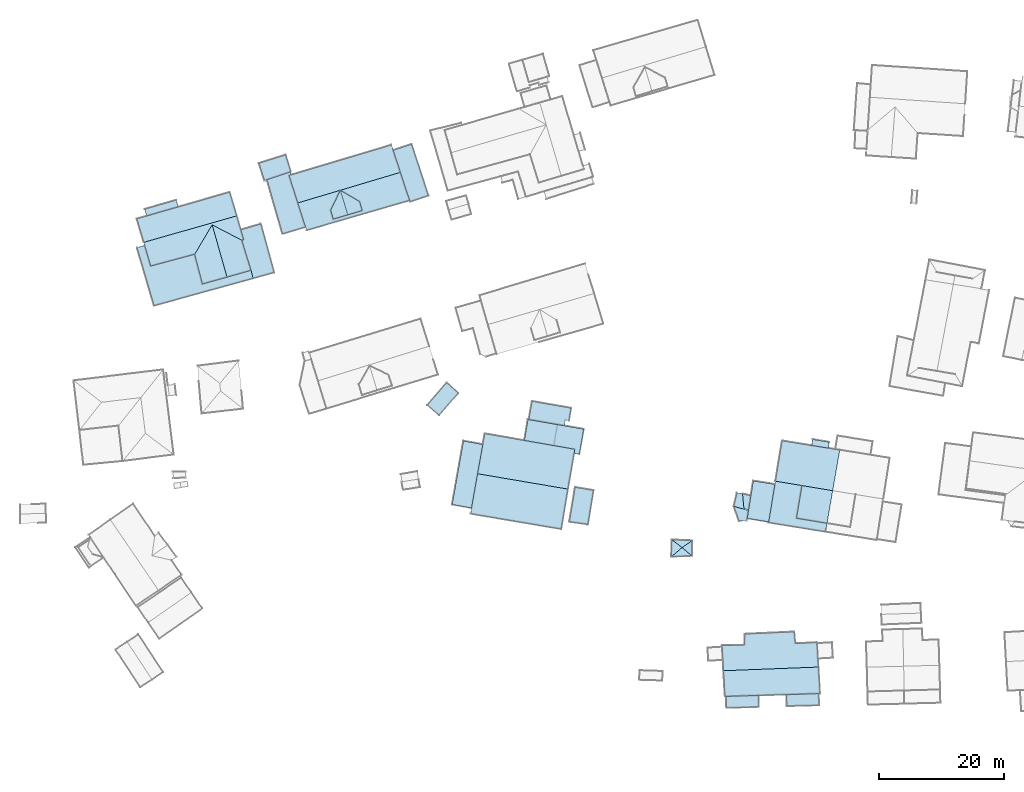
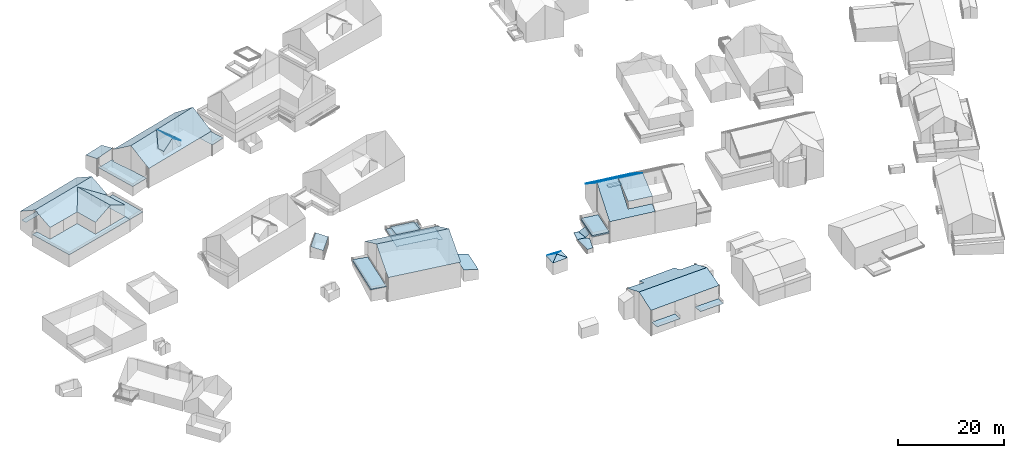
# Not in any storey, part 52 of 57: 81 roofs.
"""IFC4 building model written with IfcOpenShell, lengths in metres."""

from ifc_helpers import new_model, entity, si_unit, converted_unit, frame, origin, place, context, subcontext, project, spatial, face_set, surface_model, element, save


model = new_model("IFC4")

# Units and contexts
model_context = context("Model", 3, precision=1e-05, world=origin())
body_context = subcontext(model_context, "Body", "Model", "MODEL_VIEW")
ifc_project = project(units=[converted_unit("PLANEANGLEUNIT", "DEGREE", entity("IfcRatioMeasure", 0.0174532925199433), si_unit("PLANEANGLEUNIT", "RADIAN"), dimensions=[0, 0, 0, 0, 0, 0, 0]), si_unit("AREAUNIT", "SQUARE_METRE"), si_unit("LENGTHUNIT", "METRE")], contexts=[model_context])

# Site, building
site_placement = place(None, origin())
site = spatial("IfcSite", under=ifc_project, at=site_placement, Name="_site")
building_1_placement = place(site_placement, origin())
building_1 = spatial("IfcBuilding", under=site, at=building_1_placement, Name="_building")

# Roofs
for number, where, name in (
    (1, (0.0, 0.0, 0.0), "Roof"),
    (2, (0.0, 0.0, 0.0), "Roof"),
):
    element("IfcRoof", number, at=place(building_1_placement, frame(where)), inside=building_1, Name=name, PredefinedType="NOTDEFINED", context=body_context, shape_type="SurfaceModel", body=[
        surface_model("IfcFaceBasedSurfaceModel", [(137.156, 142.581, 118.75), (138.632, 138.094, 118.74), (138.698, 137.892, 118.75), (141.642, 138.854, 118.75), (138.963, 147.072, 118.75), (137.47, 146.587, 118.75), (136.008, 146.11, 118.75)], [face_set([[[0, 1, 2, 3, 4, 5, 6]]])]),
    ])

# Building
building_2_placement = place(site_placement, origin())
building_2 = spatial("IfcBuilding", under=site, at=building_2_placement, Name="_building")

# Roofs
roof_1_placement = place(building_2_placement, origin())
element("IfcRoof", 3, at=roof_1_placement, inside=building_2, Name="Roof", PredefinedType="NOTDEFINED", context=body_context, shape_type="SurfaceModel", body=[
    surface_model("IfcFaceBasedSurfaceModel", [(183.722, 81.324, 111.21), (183.759, 83.774, 111.23), (182.132, 82.662, 111.82)], [face_set([[[0, 1, 2]]])]),
])
roof_2_placement = place(building_2_placement, origin())
element("IfcRoof", 4, at=roof_2_placement, inside=building_2, Name="Roof", PredefinedType="NOTDEFINED", context=body_context, shape_type="SurfaceModel", body=[
    surface_model("IfcFaceBasedSurfaceModel", [(182.132, 82.662, 111.82), (180.491, 83.921, 111.23), (180.427, 81.201, 111.18)], [face_set([[[0, 1, 2]]])]),
])
roof_3_placement = place(building_2_placement, origin())
element("IfcRoof", 5, at=roof_3_placement, inside=building_2, Name="Roof", PredefinedType="NOTDEFINED", context=body_context, shape_type="SurfaceModel", body=[
    surface_model("IfcFaceBasedSurfaceModel", [(180.427, 81.201, 111.18), (183.722, 81.324, 111.21), (182.132, 82.662, 111.82)], [face_set([[[0, 1, 2]]])]),
])
roof_4_placement = place(building_2_placement, origin())
element("IfcRoof", 6, at=roof_4_placement, inside=building_2, Name="Roof", PredefinedType="NOTDEFINED", context=body_context, shape_type="SurfaceModel", body=[
    surface_model("IfcFaceBasedSurfaceModel", [(183.759, 83.774, 111.23), (180.491, 83.921, 111.23), (182.132, 82.662, 111.82)], [face_set([[[0, 1, 2]]])]),
])
roof_5_placement = place(building_2_placement, origin())
element("IfcRoof", 7, at=roof_5_placement, inside=building_2, Name="Roof", PredefinedType="NOTDEFINED", context=body_context, shape_type="SurfaceModel", body=[
    surface_model("IfcFaceBasedSurfaceModel", [(183.722, 81.324, 111.21), (183.759, 83.774, 111.23), (182.132, 82.662, 111.82)], [face_set([[[0, 1, 2]]])]),
])
roof_6_placement = place(building_2_placement, origin())
element("IfcRoof", 8, at=roof_6_placement, inside=building_2, Name="Roof", PredefinedType="NOTDEFINED", context=body_context, shape_type="SurfaceModel", body=[
    surface_model("IfcFaceBasedSurfaceModel", [(182.132, 82.662, 111.82), (180.491, 83.921, 111.23), (180.427, 81.201, 111.18)], [face_set([[[0, 1, 2]]])]),
])
roof_7_placement = place(building_2_placement, origin())
element("IfcRoof", 9, at=roof_7_placement, inside=building_2, Name="Roof", PredefinedType="NOTDEFINED", context=body_context, shape_type="SurfaceModel", body=[
    surface_model("IfcFaceBasedSurfaceModel", [(180.427, 81.201, 111.18), (183.722, 81.324, 111.21), (182.132, 82.662, 111.82)], [face_set([[[0, 1, 2]]])]),
])
roof_8_placement = place(building_2_placement, origin())
element("IfcRoof", 10, at=roof_8_placement, inside=building_2, Name="Roof", PredefinedType="NOTDEFINED", context=body_context, shape_type="SurfaceModel", body=[
    surface_model("IfcFaceBasedSurfaceModel", [(183.759, 83.774, 111.23), (180.491, 83.921, 111.23), (182.132, 82.662, 111.82)], [face_set([[[0, 1, 2]]])]),
])

# Building
building_3_placement = place(site_placement, origin())
building_3 = spatial("IfcBuilding", under=site, at=building_3_placement, Name="_building")

# Roofs
roof_9_placement = place(building_3_placement, origin())
element("IfcRoof", 11, at=roof_9_placement, inside=building_3, Name="Roof", PredefinedType="NOTDEFINED", context=body_context, shape_type="SurfaceModel", body=[
    surface_model("IfcFaceBasedSurfaceModel", [(96.318, 130.92, 117.72), (95.099, 130.568, 117.72), (97.824, 121.278, 117.72), (113.626, 125.643, 117.72), (113.305, 126.93, 117.72), (109.468, 125.839, 117.72), (105.549, 124.74, 117.72), (104.3, 129.492, 117.72), (97.291, 127.605, 117.72)], [face_set([[[0, 1, 2, 3, 4, 5, 6, 7, 8]]])]),
])
roof_10_placement = place(building_3_placement, origin())
element("IfcRoof", 12, at=roof_10_placement, inside=building_3, Name="Roof", PredefinedType="NOTDEFINED", context=body_context, shape_type="SurfaceModel", body=[
    surface_model("IfcFaceBasedSurfaceModel", [(111.028, 135.628, 122.5), (109.915, 139.417, 120.34), (95.077, 135.161, 120.29), (96.18, 131.403, 122.5)], [face_set([[[0, 1, 2, 3]]])]),
])
roof_11_placement = place(building_3_placement, origin())
element("IfcRoof", 13, at=roof_11_placement, inside=building_3, Name="Roof", PredefinedType="NOTDEFINED", context=body_context, shape_type="SurfaceModel", body=[
    surface_model("IfcFaceBasedSurfaceModel", [(111.837, 131.727, 120.35), (112.139, 131.8, 120.35), (111.676, 133.402, 121.25), (111.028, 135.628, 122.5), (96.18, 131.403, 122.5), (96.318, 130.92, 122.23), (96.337, 130.849, 122.19), (97.291, 127.605, 120.37), (100.796, 128.553, 120.37), (104.3, 129.492, 120.37), (107.092, 134.199, 122.34)], [face_set([[[0, 1, 2, 3, 4, 5, 6, 7, 8, 9, 10]]])]),
])
roof_12_placement = place(building_3_placement, origin())
element("IfcRoof", 14, at=roof_12_placement, inside=building_3, Name="Roof", PredefinedType="NOTDEFINED", context=body_context, shape_type="SurfaceModel", body=[
    surface_model("IfcFaceBasedSurfaceModel", [(107.092, 134.199, 122.34), (109.468, 125.839, 122.34), (113.305, 126.93, 120.4), (111.837, 131.727, 120.35)], [face_set([[[0, 1, 2, 3]]])]),
])
roof_13_placement = place(building_3_placement, origin())
element("IfcRoof", 15, at=roof_13_placement, inside=building_3, Name="Roof", PredefinedType="NOTDEFINED", context=body_context, shape_type="SurfaceModel", body=[
    surface_model("IfcFaceBasedSurfaceModel", [(96.318, 130.92, 117.72), (95.099, 130.568, 117.72), (97.824, 121.278, 117.72), (113.626, 125.643, 117.72), (113.305, 126.93, 117.72), (109.468, 125.839, 117.72), (105.549, 124.74, 117.72), (104.3, 129.492, 117.72), (97.291, 127.605, 117.72)], [face_set([[[0, 1, 2, 3, 4, 5, 6, 7, 8]]])]),
])
roof_14_placement = place(building_3_placement, origin())
element("IfcRoof", 16, at=roof_14_placement, inside=building_3, Name="Roof", PredefinedType="NOTDEFINED", context=body_context, shape_type="SurfaceModel", body=[
    surface_model("IfcFaceBasedSurfaceModel", [(111.837, 131.727, 120.35), (112.139, 131.8, 120.35), (111.676, 133.402, 121.25), (111.028, 135.628, 122.5), (96.18, 131.403, 122.5), (96.318, 130.92, 122.23), (96.337, 130.849, 122.19), (97.291, 127.605, 120.37), (100.796, 128.553, 120.37), (104.3, 129.492, 120.37), (107.092, 134.199, 122.34)], [face_set([[[0, 1, 2, 3, 4, 5, 6, 7, 8, 9, 10]]])]),
])
roof_15_placement = place(building_3_placement, origin())
element("IfcRoof", 17, at=roof_15_placement, inside=building_3, Name="Roof", PredefinedType="NOTDEFINED", context=body_context, shape_type="SurfaceModel", body=[
    surface_model("IfcFaceBasedSurfaceModel", [(107.092, 134.199, 122.34), (109.468, 125.839, 122.34), (113.305, 126.93, 120.4), (111.837, 131.727, 120.35)], [face_set([[[0, 1, 2, 3]]])]),
])
roof_16_placement = place(building_3_placement, origin())
element("IfcRoof", 18, at=roof_16_placement, inside=building_3, Name="Roof", PredefinedType="NOTDEFINED", context=body_context, shape_type="SurfaceModel", body=[
    surface_model("IfcFaceBasedSurfaceModel", [(111.028, 135.628, 122.5), (109.915, 139.417, 120.34), (95.077, 135.161, 120.29), (96.18, 131.403, 122.5)], [face_set([[[0, 1, 2, 3]]])]),
])
roof_17_placement = place(building_3_placement, origin())
element("IfcRoof", 19, at=roof_17_placement, inside=building_3, Name="Roof", PredefinedType="NOTDEFINED", context=body_context, shape_type="SurfaceModel", body=[
    surface_model("IfcFaceBasedSurfaceModel", [(107.092, 134.199, 122.34), (104.3, 129.492, 120.37), (105.549, 124.74, 120.42), (109.468, 125.839, 122.34)], [face_set([[[0, 1, 2, 3]]])]),
])
for number, where, name in (
    (20, (0.0, 0.0, 0.0), "Roof"),
    (21, (0.0, 0.0, 0.0), "Roof"),
):
    element("IfcRoof", number, at=place(building_3_placement, frame(where)), inside=building_3, Name=name, PredefinedType="NOTDEFINED", context=body_context, shape_type="SurfaceModel", body=[
        surface_model("IfcFaceBasedSurfaceModel", [(101.685, 137.058, 116.92), (101.371, 138.156, 116.92), (96.304, 136.703, 116.92), (96.618, 135.605, 116.92)], [face_set([[[0, 1, 2, 3]]])]),
    ])
roof_18_placement = place(building_3_placement, origin())
element("IfcRoof", 22, at=roof_18_placement, inside=building_3, Name="Roof", PredefinedType="NOTDEFINED", context=body_context, shape_type="SurfaceModel", body=[
    surface_model("IfcFaceBasedSurfaceModel", [(107.092, 134.199, 122.34), (104.3, 129.492, 120.37), (105.549, 124.74, 120.42), (109.468, 125.839, 122.34)], [face_set([[[0, 1, 2, 3]]])]),
])

# Building
building_4_placement = place(site_placement, origin())
building_4 = spatial("IfcBuilding", under=site, at=building_4_placement, Name="_building")

# Roofs
for number, where, name in (
    (23, (0.0, 0.0, 0.0), "Roof"),
    (24, (0.0, 0.0, 0.0), "Roof"),
):
    element("IfcRoof", number, at=place(building_4_placement, frame(where)), inside=building_4, Name=name, PredefinedType="NOTDEFINED", context=body_context, shape_type="SurfaceModel", body=[
        surface_model("IfcFaceBasedSurfaceModel", [(143.323, 103.783, 113.35), (146.407, 107.333, 113.35), (144.525, 108.978, 113.95), (141.44, 105.418, 113.95)], [face_set([[[0, 1, 2, 3]]])]),
    ])

# Building
building_5_placement = place(site_placement, origin())
building_5 = spatial("IfcBuilding", under=site, at=building_5_placement, Name="_building")

# Roofs
for number, where, name in (
    (25, (0.0, 0.0, 0.0), "Roof"),
    (26, (0.0, 0.0, 0.0), "Roof"),
):
    element("IfcRoof", number, at=place(building_5_placement, frame(where)), inside=building_5, Name=name, PredefinedType="NOTDEFINED", context=body_context, shape_type="SurfaceModel", body=[
        surface_model("IfcFaceBasedSurfaceModel", [(113.305, 126.93, 117.72), (113.626, 125.643, 117.72), (117.02, 126.583, 117.72), (114.89, 134.347, 117.72), (113.348, 133.893, 117.72), (111.676, 133.402, 117.72), (112.139, 131.8, 117.72), (111.837, 131.727, 117.72)], [face_set([[[0, 1, 2, 3, 4, 5, 6, 7]]])]),
    ])

# Building
building_6_placement = place(site_placement, origin())
building_6 = spatial("IfcBuilding", under=site, at=building_6_placement, Name="_building")

# Roofs
for number, where, name in (
    (27, (0.0, 0.0, 0.0), "Roof"),
    (28, (0.0, 0.0, 0.0), "Roof"),
):
    element("IfcRoof", number, at=place(building_6_placement, frame(where)), inside=building_6, Name=name, PredefinedType="NOTDEFINED", context=body_context, shape_type="SurfaceModel", body=[
        surface_model("IfcFaceBasedSurfaceModel", [(164.137, 86.766, 111.96), (167.099, 86.336, 111.26), (168.007, 91.788, 111.26), (165.057, 92.287, 111.96)], [face_set([[[0, 1, 2, 3]]])]),
    ])

# Building
building_7_placement = place(site_placement, origin())
building_7 = spatial("IfcBuilding", under=site, at=building_7_placement, Name="_building")

# Roofs
roof_19_placement = place(building_7_placement, origin())
element("IfcRoof", 29, at=roof_19_placement, inside=building_7, Name="Roof", PredefinedType="NOTDEFINED", context=body_context, shape_type="SurfaceModel", body=[
    surface_model("IfcFaceBasedSurfaceModel", [(115.856, 141.4, 121.649), (119.537, 142.633, 121.737), (119.678, 142.68, 121.74), (118.84, 145.371, 121.11), (114.566, 144.031, 121.12), (115.462, 141.268, 121.64)], [face_set([[[0, 1, 2, 3, 4, 5]]])]),
])
for number, where, name in (
    (30, (0.0, 0.0, 0.0), "Roof"),
    (31, (0.0, 0.0, 0.0), "Roof"),
):
    element("IfcRoof", number, at=place(building_7_placement, frame(where)), inside=building_7, Name=name, PredefinedType="NOTDEFINED", context=body_context, shape_type="SurfaceModel", body=[
        surface_model("IfcFaceBasedSurfaceModel", [(122.003, 133.841, 119.351), (120.772, 137.692, 119.351), (119.383, 142.067, 119.192), (119.717, 142.168, 119.18), (119.537, 142.633, 119.18), (115.856, 141.4, 119.351), (118.335, 132.745, 119.351)], [face_set([[[0, 1, 2, 3, 4, 5, 6]]])]),
    ])
roof_20_placement = place(building_7_placement, origin())
element("IfcRoof", 32, at=roof_20_placement, inside=building_7, Name="Roof", PredefinedType="NOTDEFINED", context=body_context, shape_type="SurfaceModel", body=[
    surface_model("IfcFaceBasedSurfaceModel", [(115.856, 141.4, 121.649), (119.537, 142.633, 121.737), (119.678, 142.68, 121.74), (118.84, 145.371, 121.11), (114.566, 144.031, 121.12), (115.462, 141.268, 121.64)], [face_set([[[0, 1, 2, 3, 4, 5]]])]),
])

# Building
building_8_placement = place(site_placement, origin())
building_8 = spatial("IfcBuilding", under=site, at=building_8_placement, Name="_building")

# Roofs
for number, where, name in (
    (33, (0.0, 0.0, 0.0), "Roof"),
    (34, (0.0, 0.0, 0.0), "Roof"),
):
    element("IfcRoof", number, at=place(building_8_placement, frame(where)), inside=building_8, Name=name, PredefinedType="NOTDEFINED", context=body_context, shape_type="SurfaceModel", body=[
        surface_model("IfcFaceBasedSurfaceModel", [(164.903, 97.694, 111.96), (165.73, 97.545, 111.96), (166.435, 101.571, 111.96), (157.526, 103.12, 111.96), (156.947, 99.762, 111.96), (157.017, 99.75, 111.96), (165.019, 98.352, 111.96)], [face_set([[[0, 1, 2, 3, 4, 5, 6]]])]),
    ])
for number, where, name in (
    (35, (0.0, 0.0, 0.0), "Roof"),
    (36, (0.0, 0.0, 0.0), "Roof"),
):
    element("IfcRoof", number, at=place(building_8_placement, frame(where)), inside=building_8, Name=name, PredefinedType="NOTDEFINED", context=body_context, shape_type="SurfaceModel", body=[
        surface_model("IfcFaceBasedSurfaceModel", [(166.435, 101.571, 111.94), (157.526, 103.12, 111.94), (156.947, 99.762, 111.94), (157.017, 99.75, 111.94), (165.019, 98.352, 111.94), (164.903, 97.694, 111.94), (165.73, 97.545, 111.94)], [face_set([[[0, 1, 2, 3, 4, 5, 6]]])]),
    ])

# Building
building_9_placement = place(site_placement, origin())
building_9 = spatial("IfcBuilding", under=site, at=building_9_placement, Name="_building")

# Roofs
roof_21_placement = place(building_9_placement, origin())
element("IfcRoof", 37, at=roof_21_placement, inside=building_9, Name="Roof", PredefinedType="NOTDEFINED", context=body_context, shape_type="SurfaceModel", body=[
    surface_model("IfcFaceBasedSurfaceModel", [(150.318, 99.137, 112.25), (147.219, 99.679, 112.42), (145.41, 89.525, 112.39), (148.509, 88.972, 112.28), (149.481, 94.453, 112.264)], [face_set([[[0, 1, 2, 3, 4]]])]),
])
for number, where, name in (
    (38, (0.0, 0.0, 0.0), "Roof"),
    (39, (0.0, 0.0, 0.0), "Roof"),
):
    element("IfcRoof", number, at=place(building_9_placement, frame(where)), inside=building_9, Name=name, PredefinedType="NOTDEFINED", context=body_context, shape_type="SurfaceModel", body=[
        surface_model("IfcFaceBasedSurfaceModel", [(148.509, 88.972, 112.17), (149.481, 94.453, 112.17), (150.318, 99.137, 112.17), (147.219, 99.679, 112.17), (145.41, 89.525, 112.17)], [face_set([[[0, 1, 2, 3, 4]]])]),
    ])
roof_22_placement = place(building_9_placement, origin())
element("IfcRoof", 40, at=roof_22_placement, inside=building_9, Name="Roof", PredefinedType="NOTDEFINED", context=body_context, shape_type="SurfaceModel", body=[
    surface_model("IfcFaceBasedSurfaceModel", [(150.318, 99.137, 112.25), (147.219, 99.679, 112.42), (145.41, 89.525, 112.39), (148.509, 88.972, 112.28), (149.481, 94.453, 112.264)], [face_set([[[0, 1, 2, 3, 4]]])]),
])

# Building
building_10_placement = place(site_placement, origin())
building_10 = spatial("IfcBuilding", under=site, at=building_10_placement, Name="_building")

# Roofs
roof_23_placement = place(building_10_placement, origin())
element("IfcRoof", 41, at=roof_23_placement, inside=building_10, Name="Roof", PredefinedType="NOTDEFINED", context=body_context, shape_type="SurfaceModel", body=[
    surface_model("IfcFaceBasedSurfaceModel", [(205.488, 98.535, 112.12), (202.816, 98.958, 112.11), (198.101, 99.719, 112.11), (197.04, 93.27, 116.59), (201.276, 92.562, 116.588), (206.181, 91.749, 116.585), (207.312, 98.242, 112.12)], [face_set([[[0, 1, 2, 3, 4, 5, 6]]])]),
])
roof_24_placement = place(building_10_placement, origin())
element("IfcRoof", 42, at=roof_24_placement, inside=building_10, Name="Roof", PredefinedType="NOTDEFINED", context=body_context, shape_type="SurfaceModel", body=[
    surface_model("IfcFaceBasedSurfaceModel", [(201.276, 92.562, 116.58), (200.403, 87.337, 114.72), (205.272, 86.532, 114.72), (206.181, 91.749, 116.58)], [face_set([[[0, 1, 2, 3]]])]),
])
roof_25_placement = place(building_10_placement, origin())
element("IfcRoof", 43, at=roof_25_placement, inside=building_10, Name="Roof", PredefinedType="NOTDEFINED", context=body_context, shape_type="SurfaceModel", body=[
    surface_model("IfcFaceBasedSurfaceModel", [(205.488, 98.535, 110.22), (205.641, 99.503, 110.22), (202.969, 99.935, 110.22), (202.816, 98.958, 110.22)], [face_set([[[0, 1, 2, 3]]])]),
])
roof_26_placement = place(building_10_placement, origin())
element("IfcRoof", 44, at=roof_26_placement, inside=building_10, Name="Roof", PredefinedType="NOTDEFINED", context=body_context, shape_type="SurfaceModel", body=[
    surface_model("IfcFaceBasedSurfaceModel", [(196.958, 92.761, 116.24), (195.977, 86.76, 112.09), (195.954, 86.641, 112.01), (205.035, 85.168, 112.09), (205.272, 86.532, 112.995), (200.403, 87.337, 112.986), (201.276, 92.562, 116.588), (197.04, 93.27, 116.59)], [face_set([[[0, 1, 2, 3, 4, 5, 6, 7]]])]),
])
roof_27_placement = place(building_10_placement, origin())
element("IfcRoof", 45, at=roof_27_placement, inside=building_10, Name="Roof", PredefinedType="NOTDEFINED", context=body_context, shape_type="SurfaceModel", body=[
    surface_model("IfcFaceBasedSurfaceModel", [(205.488, 98.535, 112.12), (202.816, 98.958, 112.11), (198.101, 99.719, 112.11), (197.04, 93.27, 116.59), (201.276, 92.562, 116.588), (206.181, 91.749, 116.585), (207.312, 98.242, 112.12)], [face_set([[[0, 1, 2, 3, 4, 5, 6]]])]),
])
roof_28_placement = place(building_10_placement, origin())
element("IfcRoof", 46, at=roof_28_placement, inside=building_10, Name="Roof", PredefinedType="NOTDEFINED", context=body_context, shape_type="SurfaceModel", body=[
    surface_model("IfcFaceBasedSurfaceModel", [(201.276, 92.562, 116.58), (200.403, 87.337, 114.72), (205.272, 86.532, 114.72), (206.181, 91.749, 116.58)], [face_set([[[0, 1, 2, 3]]])]),
])
roof_29_placement = place(building_10_placement, origin())
element("IfcRoof", 47, at=roof_29_placement, inside=building_10, Name="Roof", PredefinedType="NOTDEFINED", context=body_context, shape_type="SurfaceModel", body=[
    surface_model("IfcFaceBasedSurfaceModel", [(205.488, 98.535, 110.22), (205.641, 99.503, 110.22), (202.969, 99.935, 110.22), (202.816, 98.958, 110.22)], [face_set([[[0, 1, 2, 3]]])]),
])
for number, where, name in (
    (48, (0.0, 0.0, 0.0), "Roof"),
    (49, (0.0, 0.0, 0.0), "Roof"),
):
    element("IfcRoof", number, at=place(building_10_placement, frame(where)), inside=building_10, Name=name, PredefinedType="NOTDEFINED", context=body_context, shape_type="SurfaceModel", body=[
        surface_model("IfcFaceBasedSurfaceModel", [(202.816, 98.958, 109.94), (205.488, 98.535, 109.94), (205.641, 99.503, 109.94), (202.969, 99.935, 109.94)], [face_set([[[0, 1, 2, 3]]])]),
    ])
roof_30_placement = place(building_10_placement, origin())
element("IfcRoof", 50, at=roof_30_placement, inside=building_10, Name="Roof", PredefinedType="NOTDEFINED", context=body_context, shape_type="SurfaceModel", body=[
    surface_model("IfcFaceBasedSurfaceModel", [(196.958, 92.761, 116.24), (195.977, 86.76, 112.09), (195.954, 86.641, 112.01), (205.035, 85.168, 112.09), (205.272, 86.532, 112.995), (200.403, 87.337, 112.986), (201.276, 92.562, 116.588), (197.04, 93.27, 116.59)], [face_set([[[0, 1, 2, 3, 4, 5, 6, 7]]])]),
])

# Building
building_11_placement = place(site_placement, origin())
building_11 = spatial("IfcBuilding", under=site, at=building_11_placement, Name="_building")

# Roofs
roof_31_placement = place(building_11_placement, origin())
element("IfcRoof", 51, at=roof_31_placement, inside=building_11, Name="Roof", PredefinedType="NOTDEFINED", context=body_context, shape_type="SurfaceModel", body=[
    surface_model("IfcFaceBasedSurfaceModel", [(149.481, 94.453, 118.39), (148.509, 88.972, 115.41), (148.348, 88.056, 114.91), (162.839, 85.605, 114.91), (163.909, 91.994, 118.39)], [face_set([[[0, 1, 2, 3, 4]]])]),
])
roof_32_placement = place(building_11_placement, origin())
element("IfcRoof", 52, at=roof_32_placement, inside=building_11, Name="Roof", PredefinedType="NOTDEFINED", context=body_context, shape_type="SurfaceModel", body=[
    surface_model("IfcFaceBasedSurfaceModel", [(163.909, 91.994, 118.39), (164.903, 97.694, 115.11), (165.019, 98.352, 114.73), (156.947, 99.762, 114.73), (150.619, 100.861, 114.73), (150.318, 99.137, 115.72), (149.481, 94.453, 118.39)], [face_set([[[0, 1, 2, 3, 4, 5, 6]]])]),
])
roof_33_placement = place(building_11_placement, origin())
element("IfcRoof", 53, at=roof_33_placement, inside=building_11, Name="Roof", PredefinedType="NOTDEFINED", context=body_context, shape_type="SurfaceModel", body=[
    surface_model("IfcFaceBasedSurfaceModel", [(149.481, 94.453, 118.39), (148.509, 88.972, 115.41), (148.348, 88.056, 114.91), (162.839, 85.605, 114.91), (163.909, 91.994, 118.39)], [face_set([[[0, 1, 2, 3, 4]]])]),
])
roof_34_placement = place(building_11_placement, origin())
element("IfcRoof", 54, at=roof_34_placement, inside=building_11, Name="Roof", PredefinedType="NOTDEFINED", context=body_context, shape_type="SurfaceModel", body=[
    surface_model("IfcFaceBasedSurfaceModel", [(163.909, 91.994, 118.39), (164.903, 97.694, 115.11), (165.019, 98.352, 114.73), (156.947, 99.762, 114.73), (150.619, 100.861, 114.73), (150.318, 99.137, 115.72), (149.481, 94.453, 118.39)], [face_set([[[0, 1, 2, 3, 4, 5, 6]]])]),
])

# Building
building_12_placement = place(site_placement, origin())
building_12 = spatial("IfcBuilding", under=site, at=building_12_placement, Name="_building")

# Roofs
roof_35_placement = place(building_12_placement, origin())
element("IfcRoof", 55, at=roof_35_placement, inside=building_12, Name="Roof", PredefinedType="NOTDEFINED", context=body_context, shape_type="SurfaceModel", body=[
    surface_model("IfcFaceBasedSurfaceModel", [(127.561, 139.715, 125.033), (126.018, 136.518, 123.2), (126.445, 135.097, 123.21), (128.752, 135.784, 125.04)], [face_set([[[0, 1, 2, 3]]])]),
])
roof_36_placement = place(building_12_placement, origin())
element("IfcRoof", 56, at=roof_36_placement, inside=building_12, Name="Roof", PredefinedType="NOTDEFINED", context=body_context, shape_type="SurfaceModel", body=[
    surface_model("IfcFaceBasedSurfaceModel", [(127.561, 139.715, 125.033), (128.752, 135.784, 125.04), (131.07, 136.47, 123.25), (130.643, 137.891, 123.235)], [face_set([[[0, 1, 2, 3]]])]),
])
roof_37_placement = place(building_12_placement, origin())
element("IfcRoof", 57, at=roof_37_placement, inside=building_12, Name="Roof", PredefinedType="NOTDEFINED", context=body_context, shape_type="SurfaceModel", body=[
    surface_model("IfcFaceBasedSurfaceModel", [(127.561, 139.715, 125.045), (120.772, 137.692, 124.95), (122.003, 133.841, 122.213), (122.17, 133.316, 121.84), (138.632, 138.094, 121.82), (137.156, 142.581, 125.18)], [face_set([[[0, 1, 2, 3, 4, 5]]])]),
])
roof_38_placement = place(building_12_placement, origin())
element("IfcRoof", 58, at=roof_38_placement, inside=building_12, Name="Roof", PredefinedType="NOTDEFINED", context=body_context, shape_type="SurfaceModel", body=[
    surface_model("IfcFaceBasedSurfaceModel", [(127.561, 139.715, 125.033), (128.752, 135.784, 125.04), (131.07, 136.47, 123.25), (130.643, 137.891, 123.235)], [face_set([[[0, 1, 2, 3]]])]),
])
roof_39_placement = place(building_12_placement, origin())
element("IfcRoof", 59, at=roof_39_placement, inside=building_12, Name="Roof", PredefinedType="NOTDEFINED", context=body_context, shape_type="SurfaceModel", body=[
    surface_model("IfcFaceBasedSurfaceModel", [(127.561, 139.715, 125.033), (126.018, 136.518, 123.2), (126.445, 135.097, 123.21), (128.752, 135.784, 125.04)], [face_set([[[0, 1, 2, 3]]])]),
])
roof_40_placement = place(building_12_placement, origin())
element("IfcRoof", 60, at=roof_40_placement, inside=building_12, Name="Roof", PredefinedType="NOTDEFINED", context=body_context, shape_type="SurfaceModel", body=[
    surface_model("IfcFaceBasedSurfaceModel", [(127.561, 139.715, 125.045), (137.156, 142.581, 125.18), (136.008, 146.11, 122.4), (135.728, 146.957, 121.73), (119.717, 142.168, 121.877), (119.383, 142.067, 121.88), (120.772, 137.692, 124.95)], [face_set([[[0, 1, 2, 3, 4, 5, 6]]])]),
])
roof_41_placement = place(building_12_placement, origin())
element("IfcRoof", 61, at=roof_41_placement, inside=building_12, Name="Roof", PredefinedType="NOTDEFINED", context=body_context, shape_type="SurfaceModel", body=[
    surface_model("IfcFaceBasedSurfaceModel", [(127.561, 139.715, 125.045), (120.772, 137.692, 124.95), (122.003, 133.841, 122.213), (122.17, 133.316, 121.84), (138.632, 138.094, 121.82), (137.156, 142.581, 125.18)], [face_set([[[0, 1, 2, 3, 4, 5]]])]),
])
roof_42_placement = place(building_12_placement, origin())
element("IfcRoof", 62, at=roof_42_placement, inside=building_12, Name="Roof", PredefinedType="NOTDEFINED", context=body_context, shape_type="SurfaceModel", body=[
    surface_model("IfcFaceBasedSurfaceModel", [(128.752, 135.784, 122.196), (131.07, 136.47, 122.211), (130.643, 137.891, 123.237), (127.561, 139.715, 125.035), (126.018, 136.518, 123.203), (126.445, 135.097, 122.177)], [face_set([[[0, 1, 2, 3, 4, 5]]])]),
])
roof_43_placement = place(building_12_placement, origin())
element("IfcRoof", 63, at=roof_43_placement, inside=building_12, Name="Roof", PredefinedType="NOTDEFINED", context=body_context, shape_type="SurfaceModel", body=[
    surface_model("IfcFaceBasedSurfaceModel", [(127.561, 139.715, 125.045), (137.156, 142.581, 125.18), (136.008, 146.11, 122.4), (135.728, 146.957, 121.73), (119.717, 142.168, 121.877), (119.383, 142.067, 121.88), (120.772, 137.692, 124.95)], [face_set([[[0, 1, 2, 3, 4, 5, 6]]])]),
])

# Building
building_13_placement = place(site_placement, origin())
building_13 = spatial("IfcBuilding", under=site, at=building_13_placement, Name="_building")

# Roofs
roof_44_placement = place(building_13_placement, origin())
element("IfcRoof", 64, at=roof_44_placement, inside=building_13, Name="Roof", PredefinedType="NOTDEFINED", context=body_context, shape_type="SurfaceModel", body=[
    surface_model("IfcFaceBasedSurfaceModel", [(188.746, 62.995, 112.64), (188.99, 58.887, 110.78), (189.171, 58.893, 110.783), (194.347, 59.048, 110.858), (198.813, 59.179, 110.922), (203.97, 59.335, 110.997), (204.18, 59.341, 111.0), (203.919, 63.58, 112.64)], [face_set([[[0, 1, 2, 3, 4, 5, 6, 7]]])]),
])
roof_45_placement = place(building_13_placement, origin())
element("IfcRoof", 65, at=roof_45_placement, inside=building_13, Name="Roof", PredefinedType="NOTDEFINED", context=body_context, shape_type="SurfaceModel", body=[
    surface_model("IfcFaceBasedSurfaceModel", [(203.919, 63.58, 112.64), (203.84, 64.913, 112.11), (203.688, 67.358, 111.16), (203.671, 67.509, 111.1), (200.235, 67.349, 111.12), (200.059, 69.214, 110.47), (192.156, 68.859, 110.47), (192.105, 67.109, 111.13), (188.52, 67.023, 111.16), (188.535, 66.802, 111.24), (188.656, 64.698, 112.01), (188.746, 62.995, 112.64)], [face_set([[[0, 1, 2, 3, 4, 5, 6, 7, 8, 9, 10, 11]]])]),
])
roof_46_placement = place(building_13_placement, origin())
element("IfcRoof", 66, at=roof_46_placement, inside=building_13, Name="Roof", PredefinedType="NOTDEFINED", context=body_context, shape_type="SurfaceModel", body=[
    surface_model("IfcFaceBasedSurfaceModel", [(188.746, 62.995, 112.64), (188.99, 58.887, 110.78), (189.171, 58.893, 110.783), (194.347, 59.048, 110.858), (198.813, 59.179, 110.922), (203.97, 59.335, 110.997), (204.18, 59.341, 111.0), (203.919, 63.58, 112.64)], [face_set([[[0, 1, 2, 3, 4, 5, 6, 7]]])]),
])
roof_47_placement = place(building_13_placement, origin())
element("IfcRoof", 67, at=roof_47_placement, inside=building_13, Name="Roof", PredefinedType="NOTDEFINED", context=body_context, shape_type="SurfaceModel", body=[
    surface_model("IfcFaceBasedSurfaceModel", [(203.919, 63.58, 112.64), (203.84, 64.913, 112.11), (203.688, 67.358, 111.16), (203.671, 67.509, 111.1), (200.235, 67.349, 111.12), (200.059, 69.214, 110.47), (192.156, 68.859, 110.47), (192.105, 67.109, 111.13), (188.52, 67.023, 111.16), (188.535, 66.802, 111.24), (188.656, 64.698, 112.01), (188.746, 62.995, 112.64)], [face_set([[[0, 1, 2, 3, 4, 5, 6, 7, 8, 9, 10, 11]]])]),
])
roof_48_placement = place(building_13_placement, origin())
element("IfcRoof", 68, at=roof_48_placement, inside=building_13, Name="Roof", PredefinedType="NOTDEFINED", context=body_context, shape_type="SurfaceModel", body=[
    surface_model("IfcFaceBasedSurfaceModel", [(203.97, 59.335, 107.99), (198.813, 59.179, 107.99), (198.87, 57.325, 107.99), (204.027, 57.474, 107.99)], [face_set([[[0, 1, 2, 3]]])]),
])
roof_49_placement = place(building_13_placement, origin())
element("IfcRoof", 69, at=roof_49_placement, inside=building_13, Name="Roof", PredefinedType="NOTDEFINED", context=body_context, shape_type="SurfaceModel", body=[
    surface_model("IfcFaceBasedSurfaceModel", [(194.347, 59.048, 108.01), (189.171, 58.893, 108.01), (189.228, 57.05, 108.01), (194.404, 57.209, 108.01)], [face_set([[[0, 1, 2, 3]]])]),
])
roof_50_placement = place(building_13_placement, origin())
element("IfcRoof", 70, at=roof_50_placement, inside=building_13, Name="Roof", PredefinedType="NOTDEFINED", context=body_context, shape_type="SurfaceModel", body=[
    surface_model("IfcFaceBasedSurfaceModel", [(203.97, 59.335, 107.99), (198.813, 59.179, 107.99), (198.87, 57.325, 107.99), (204.027, 57.474, 107.99)], [face_set([[[0, 1, 2, 3]]])]),
])
roof_51_placement = place(building_13_placement, origin())
element("IfcRoof", 71, at=roof_51_placement, inside=building_13, Name="Roof", PredefinedType="NOTDEFINED", context=body_context, shape_type="SurfaceModel", body=[
    surface_model("IfcFaceBasedSurfaceModel", [(194.347, 59.048, 108.01), (189.171, 58.893, 108.01), (189.228, 57.05, 108.01), (194.404, 57.209, 108.01)], [face_set([[[0, 1, 2, 3]]])]),
])

# Building
building_14_placement = place(site_placement, origin())
building_14 = spatial("IfcBuilding", under=site, at=building_14_placement, Name="_building")

# Roofs
for number, where, name in (
    (72, (0.0, 0.0, 0.0), "Roof"),
    (73, (0.0, 0.0, 0.0), "Roof"),
):
    element("IfcRoof", number, at=place(building_14_placement, frame(where)), inside=building_14, Name=name, PredefinedType="NOTDEFINED", context=body_context, shape_type="SurfaceModel", body=[
        surface_model("IfcFaceBasedSurfaceModel", [(156.947, 99.762, 114.73), (161.651, 98.941, 114.73), (162.239, 102.3, 114.33), (157.526, 103.12, 114.33)], [face_set([[[0, 1, 2, 3]]])]),
    ])
for number, where, name in (
    (74, (0.0, 0.0, 0.0), "Roof"),
    (75, (0.0, 0.0, 0.0), "Roof"),
):
    element("IfcRoof", number, at=place(building_14_placement, frame(where)), inside=building_14, Name=name, PredefinedType="NOTDEFINED", context=body_context, shape_type="SurfaceModel", body=[
        surface_model("IfcFaceBasedSurfaceModel", [(157.655, 103.097, 111.8), (163.326, 102.114, 111.8), (163.487, 103.021, 111.8), (164.075, 102.917, 111.8), (164.432, 104.93, 111.8), (158.174, 106.027, 111.8)], [face_set([[[0, 1, 2, 3, 4, 5]]])]),
    ])

# Building
building_15_placement = place(site_placement, origin())
building_15 = spatial("IfcBuilding", under=site, at=building_15_placement, Name="_building")

# Roofs
roof_52_placement = place(building_15_placement, origin())
element("IfcRoof", 76, at=roof_52_placement, inside=building_15, Name="Roof", PredefinedType="NOTDEFINED", context=body_context, shape_type="SurfaceModel", body=[
    surface_model("IfcFaceBasedSurfaceModel", [(196.958, 92.761, 109.28), (193.498, 93.313, 109.28), (192.538, 87.311, 109.28), (195.977, 86.76, 109.28)], [face_set([[[0, 1, 2, 3]]])]),
])
roof_53_placement = place(building_15_placement, origin())
element("IfcRoof", 77, at=roof_53_placement, inside=building_15, Name="Roof", PredefinedType="NOTDEFINED", context=body_context, shape_type="SurfaceModel", body=[
    surface_model("IfcFaceBasedSurfaceModel", [(192.737, 88.577, 108.07), (191.962, 88.796, 108.38), (192.005, 88.905, 108.39), (192.76, 88.677, 109.09), (193.123, 90.96, 109.2), (191.789, 91.231, 108.39), (190.893, 91.422, 108.37), (190.401, 89.242, 108.27), (191.246, 86.851, 107.09), (192.459, 86.963, 107.04)], [face_set([[[0, 1, 2, 3, 4, 5, 6, 7, 8, 9]]])]),
])
roof_54_placement = place(building_15_placement, origin())
element("IfcRoof", 78, at=roof_54_placement, inside=building_15, Name="Roof", PredefinedType="NOTDEFINED", context=body_context, shape_type="SurfaceModel", body=[
    surface_model("IfcFaceBasedSurfaceModel", [(196.958, 92.761, 109.28), (193.498, 93.313, 109.28), (192.538, 87.311, 109.28), (195.977, 86.76, 109.28)], [face_set([[[0, 1, 2, 3]]])]),
])
for number, where, name in (
    (79, (0.0, 0.0, 0.0), "Roof"),
    (80, (0.0, 0.0, 0.0), "Roof"),
):
    element("IfcRoof", number, at=place(building_15_placement, frame(where)), inside=building_15, Name=name, PredefinedType="NOTDEFINED", context=body_context, shape_type="SurfaceModel", body=[
        surface_model("IfcFaceBasedSurfaceModel", [(195.977, 86.76, 109.6), (196.958, 92.761, 109.6), (193.498, 93.313, 109.6), (192.538, 87.311, 109.6)], [face_set([[[0, 1, 2, 3]]])]),
    ])
roof_55_placement = place(building_15_placement, origin())
element("IfcRoof", 81, at=roof_55_placement, inside=building_15, Name="Roof", PredefinedType="NOTDEFINED", context=body_context, shape_type="SurfaceModel", body=[
    surface_model("IfcFaceBasedSurfaceModel", [(192.737, 88.577, 108.07), (191.962, 88.796, 108.38), (192.005, 88.905, 108.39), (192.76, 88.677, 109.09), (193.123, 90.96, 109.2), (191.789, 91.231, 108.39), (190.893, 91.422, 108.37), (190.401, 89.242, 108.27), (191.246, 86.851, 107.09), (192.459, 86.963, 107.04)], [face_set([[[0, 1, 2, 3, 4, 5, 6, 7, 8, 9]]])]),
])

save(model, "model.ifc")
